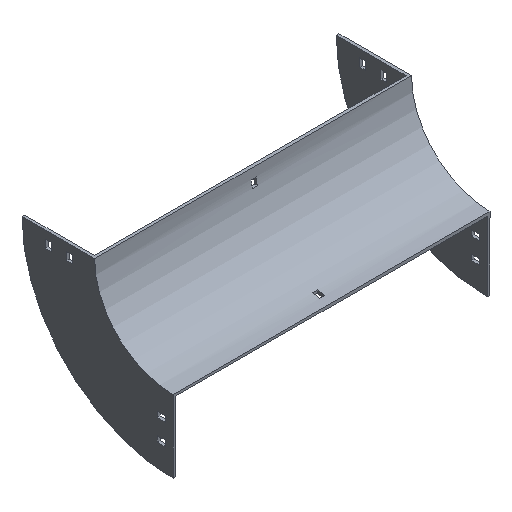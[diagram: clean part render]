
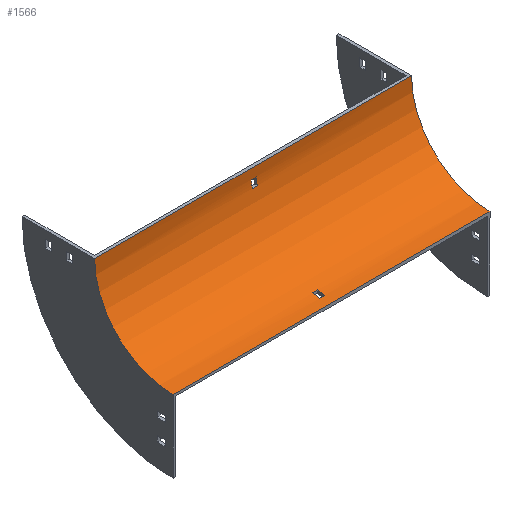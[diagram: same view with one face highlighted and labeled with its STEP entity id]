
A CAD part, isometric view. The second image highlights one B-rep face of the part: STEP entity #1566.
In plain terms, the highlighted cylindrical face has radius 100 mm (diameter 200 mm), a partial arc.
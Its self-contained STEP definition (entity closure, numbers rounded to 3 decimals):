
#26 = EDGE_CURVE ( 'NONE', #530, #1015, #1686, .T. ) ;
#44 = VERTEX_POINT ( 'NONE', #1232 ) ;
#45 = DIRECTION ( 'NONE',  ( 0., 0., 1. ) ) ;
#59 = CARTESIAN_POINT ( 'NONE',  ( 3.25, -100., 0. ) ) ;
#63 = CIRCLE ( 'NONE', #1512, 100. ) ;
#65 = DIRECTION ( 'NONE',  ( 0., 0., 1. ) ) ;
#89 = VECTOR ( 'NONE', #904, 1000. ) ;
#105 = CARTESIAN_POINT ( 'NONE',  ( 202., -2.23, -21. ) ) ;
#113 = CARTESIAN_POINT ( 'NONE',  ( -3.25, -0.723, -12. ) ) ;
#149 = ORIENTED_EDGE ( 'NONE', *, *, #796, .F. ) ;
#218 = ORIENTED_EDGE ( 'NONE', *, *, #26, .T. ) ;
#228 = ORIENTED_EDGE ( 'NONE', *, *, #809, .T. ) ;
#240 = CARTESIAN_POINT ( 'NONE',  ( 202., -88., -99.277 ) ) ;
#241 = CARTESIAN_POINT ( 'NONE',  ( 3.25, -79., -97.77 ) ) ;
#259 = EDGE_CURVE ( 'NONE', #493, #795, #1235, .T. ) ;
#288 = CIRCLE ( 'NONE', #1560, 100. ) ;
#301 = CIRCLE ( 'NONE', #1470, 100. ) ;
#314 = DIRECTION ( 'NONE',  ( -1., 0., 0. ) ) ;
#315 = CIRCLE ( 'NONE', #1183, 100. ) ;
#381 = VECTOR ( 'NONE', #758, 1000. ) ;
#383 = VECTOR ( 'NONE', #822, 1000. ) ;
#405 = VECTOR ( 'NONE', #1052, 1000. ) ;
#408 = DIRECTION ( 'NONE',  ( 1., 0., 0. ) ) ;
#436 = DIRECTION ( 'NONE',  ( -1., 0., 0. ) ) ;
#479 = EDGE_LOOP ( 'NONE', ( #228, #841, #1123, #218 ) ) ;
#482 = LINE ( 'NONE', #105, #1000 ) ;
#493 = VERTEX_POINT ( 'NONE', #241 ) ;
#495 = CARTESIAN_POINT ( 'NONE',  ( -3.25, -79., -97.77 ) ) ;
#508 = VERTEX_POINT ( 'NONE', #1284 ) ;
#525 = CARTESIAN_POINT ( 'NONE',  ( -3.25, -88., -99.277 ) ) ;
#527 = EDGE_CURVE ( 'NONE', #1116, #530, #1428, .T. ) ;
#530 = VERTEX_POINT ( 'NONE', #1163 ) ;
#553 = CARTESIAN_POINT ( 'NONE',  ( 202., -100., 0. ) ) ;
#564 = DIRECTION ( 'NONE',  ( 0., 0., -1. ) ) ;
#575 = DIRECTION ( 'NONE',  ( 1., 0., 0. ) ) ;
#585 = FACE_BOUND ( 'NONE', #479, .T. ) ;
#613 = EDGE_CURVE ( 'NONE', #508, #1116, #301, .T. ) ;
#637 = CARTESIAN_POINT ( 'NONE',  ( 202., -0.723, -12. ) ) ;
#647 = CARTESIAN_POINT ( 'NONE',  ( 3.25, -88., -99.277 ) ) ;
#678 = AXIS2_PLACEMENT_3D ( 'NONE', #59, #963, #564 ) ;
#694 = CIRCLE ( 'NONE', #1125, 100. ) ;
#708 = VECTOR ( 'NONE', #1563, 1000. ) ;
#711 = FACE_OUTER_BOUND ( 'NONE', #1636, .T. ) ;
#730 = FACE_BOUND ( 'NONE', #1374, .T. ) ;
#758 = DIRECTION ( 'NONE',  ( 1., 0., 0. ) ) ;
#795 = VERTEX_POINT ( 'NONE', #495 ) ;
#796 = EDGE_CURVE ( 'NONE', #1103, #1117, #1256, .T. ) ;
#809 = EDGE_CURVE ( 'NONE', #1015, #508, #482, .T. ) ;
#822 = DIRECTION ( 'NONE',  ( -1., 0., 0. ) ) ;
#841 = ORIENTED_EDGE ( 'NONE', *, *, #613, .T. ) ;
#862 = EDGE_CURVE ( 'NONE', #1529, #1364, #918, .T. ) ;
#902 = ORIENTED_EDGE ( 'NONE', *, *, #1185, .T. ) ;
#904 = DIRECTION ( 'NONE',  ( -1., 0., 0. ) ) ;
#915 = CARTESIAN_POINT ( 'NONE',  ( 202., 0., 0. ) ) ;
#918 = LINE ( 'NONE', #1685, #405 ) ;
#921 = CARTESIAN_POINT ( 'NONE',  ( -3.25, -100., 0. ) ) ;
#934 = DIRECTION ( 'NONE',  ( -1., 0., 0. ) ) ;
#963 = DIRECTION ( 'NONE',  ( -1., 0., 0. ) ) ;
#999 = DIRECTION ( 'NONE',  ( -1., 0., 0. ) ) ;
#1000 = VECTOR ( 'NONE', #999, 1000. ) ;
#1007 = ORIENTED_EDGE ( 'NONE', *, *, #1092, .F. ) ;
#1015 = VERTEX_POINT ( 'NONE', #1576 ) ;
#1043 = ORIENTED_EDGE ( 'NONE', *, *, #862, .T. ) ;
#1052 = DIRECTION ( 'NONE',  ( -1., 0., 0. ) ) ;
#1054 = LINE ( 'NONE', #1292, #89 ) ;
#1055 = CARTESIAN_POINT ( 'NONE',  ( -3.25, -100., 0. ) ) ;
#1075 = DIRECTION ( 'NONE',  ( -1., 0., 0. ) ) ;
#1081 = DIRECTION ( 'NONE',  ( 0., -1., 0. ) ) ;
#1092 = EDGE_CURVE ( 'NONE', #44, #1310, #1054, .T. ) ;
#1103 = VERTEX_POINT ( 'NONE', #525 ) ;
#1116 = VERTEX_POINT ( 'NONE', #113 ) ;
#1117 = VERTEX_POINT ( 'NONE', #647 ) ;
#1123 = ORIENTED_EDGE ( 'NONE', *, *, #527, .T. ) ;
#1125 = AXIS2_PLACEMENT_3D ( 'NONE', #1464, #314, #45 ) ;
#1163 = CARTESIAN_POINT ( 'NONE',  ( 3.25, -0.723, -12. ) ) ;
#1183 = AXIS2_PLACEMENT_3D ( 'NONE', #921, #1075, #1690 ) ;
#1185 = EDGE_CURVE ( 'NONE', #1364, #1310, #694, .T. ) ;
#1232 = CARTESIAN_POINT ( 'NONE',  ( 202., -100., -100. ) ) ;
#1235 = LINE ( 'NONE', #1484, #383 ) ;
#1236 = CARTESIAN_POINT ( 'NONE',  ( 202., -100., 0. ) ) ;
#1248 = ORIENTED_EDGE ( 'NONE', *, *, #1497, .F. ) ;
#1256 = LINE ( 'NONE', #240, #381 ) ;
#1284 = CARTESIAN_POINT ( 'NONE',  ( -3.25, -2.23, -21. ) ) ;
#1292 = CARTESIAN_POINT ( 'NONE',  ( 202., -100., -100. ) ) ;
#1299 = DIRECTION ( 'NONE',  ( 0., 0., 1. ) ) ;
#1310 = VERTEX_POINT ( 'NONE', #1500 ) ;
#1363 = ORIENTED_EDGE ( 'NONE', *, *, #1446, .F. ) ;
#1364 = VERTEX_POINT ( 'NONE', #1532 ) ;
#1374 = EDGE_LOOP ( 'NONE', ( #1248, #1463, #1496, #149 ) ) ;
#1379 = CARTESIAN_POINT ( 'NONE',  ( 3.25, -100., 0. ) ) ;
#1428 = LINE ( 'NONE', #637, #708 ) ;
#1446 = EDGE_CURVE ( 'NONE', #1529, #44, #288, .T. ) ;
#1463 = ORIENTED_EDGE ( 'NONE', *, *, #259, .F. ) ;
#1464 = CARTESIAN_POINT ( 'NONE',  ( -202., -100., 0. ) ) ;
#1470 = AXIS2_PLACEMENT_3D ( 'NONE', #1055, #408, #1299 ) ;
#1484 = CARTESIAN_POINT ( 'NONE',  ( 202., -79., -97.77 ) ) ;
#1496 = ORIENTED_EDGE ( 'NONE', *, *, #1593, .F. ) ;
#1497 = EDGE_CURVE ( 'NONE', #795, #1103, #315, .T. ) ;
#1500 = CARTESIAN_POINT ( 'NONE',  ( -202., -100., -100. ) ) ;
#1512 = AXIS2_PLACEMENT_3D ( 'NONE', #1379, #575, #1081 ) ;
#1529 = VERTEX_POINT ( 'NONE', #915 ) ;
#1532 = CARTESIAN_POINT ( 'NONE',  ( -202., 0., 0. ) ) ;
#1538 = AXIS2_PLACEMENT_3D ( 'NONE', #1236, #436, #65 ) ;
#1560 = AXIS2_PLACEMENT_3D ( 'NONE', #553, #934, #1598 ) ;
#1563 = DIRECTION ( 'NONE',  ( 1., 0., 0. ) ) ;
#1566 = ADVANCED_FACE ( 'NONE', ( #711, #585, #730 ), #1640, .F. ) ;
#1576 = CARTESIAN_POINT ( 'NONE',  ( 3.25, -2.23, -21. ) ) ;
#1593 = EDGE_CURVE ( 'NONE', #1117, #493, #63, .T. ) ;
#1598 = DIRECTION ( 'NONE',  ( 0., 0., 1. ) ) ;
#1636 = EDGE_LOOP ( 'NONE', ( #902, #1007, #1363, #1043 ) ) ;
#1640 = CYLINDRICAL_SURFACE ( 'NONE', #1538, 100. ) ;
#1685 = CARTESIAN_POINT ( 'NONE',  ( 202., 0., 0. ) ) ;
#1686 = CIRCLE ( 'NONE', #678, 100. ) ;
#1690 = DIRECTION ( 'NONE',  ( 0., 1., 0. ) ) ;
